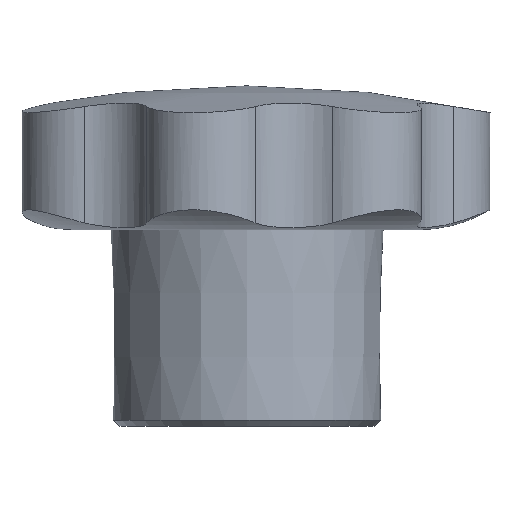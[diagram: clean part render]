
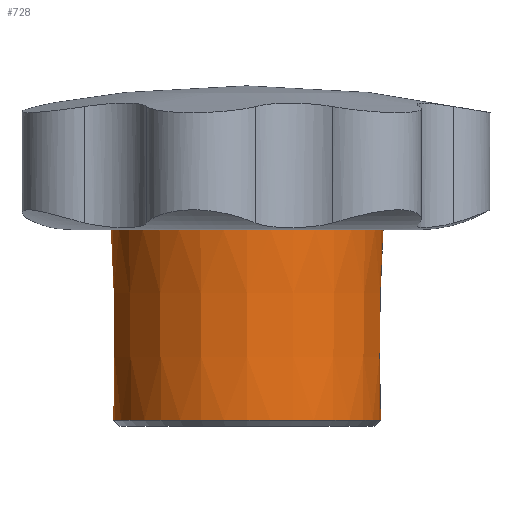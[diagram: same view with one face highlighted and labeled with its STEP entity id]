
A CAD part, left-side view. The second image highlights one B-rep face of the part: STEP entity #728.
In plain terms, the highlighted conical face has half-angle 0.71 degrees and reference radius 11.006 mm.
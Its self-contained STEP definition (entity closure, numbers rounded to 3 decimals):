
#692=CARTESIAN_POINT('',(11.2,0.,16.15));
#693=VERTEX_POINT('',#692);
#694=CARTESIAN_POINT('',(0.,0.,16.15));
#695=DIRECTION('',(1.,0.,0.));
#696=DIRECTION('',(0.,0.,1.));
#697=AXIS2_PLACEMENT_3D('',#694,#696,#695);
#698=CIRCLE('',#697,11.2);
#699=EDGE_CURVE('',#693,#693,#698,.T.);
#704=CARTESIAN_POINT('',(0.,0.,0.5));
#705=DIRECTION('',(1.,0.,0.));
#706=DIRECTION('',(0.,0.,1.));
#707=AXIS2_PLACEMENT_3D('',#704,#706,#705);
#708=CONICAL_SURFACE('',#707,11.006,0.012);
#709=CARTESIAN_POINT('',(11.006,0.,0.5));
#710=VERTEX_POINT('',#709);
#711=CARTESIAN_POINT('',(11.006,0.,0.5));
#712=DIRECTION('',(0.012,0.,1.));
#713=VECTOR('',#712,15.651);
#714=LINE('',#711,#713);
#715=EDGE_CURVE('',#710,#693,#714,.T.);
#716=ORIENTED_EDGE('E2',*,*,#715,.T.);
#717=ORIENTED_EDGE('E2',*,*,#699,.T.);
#718=ORIENTED_EDGE('E2',*,*,#715,.F.);
#719=CARTESIAN_POINT('',(0.,0.,0.5));
#720=DIRECTION('',(1.,0.,-0.));
#721=DIRECTION('',(0.,0.,1.));
#722=AXIS2_PLACEMENT_3D('',#719,#721,#720);
#723=CIRCLE('',#722,11.006);
#724=EDGE_CURVE('',#710,#710,#723,.T.);
#725=ORIENTED_EDGE('E7',*,*,#724,.F.);
#726=EDGE_LOOP('',(#716,#717,#718,#725));
#727=FACE_OUTER_BOUND('',#726,.F.);
#728=ADVANCED_FACE('F3',(#727),#708,.T.);
